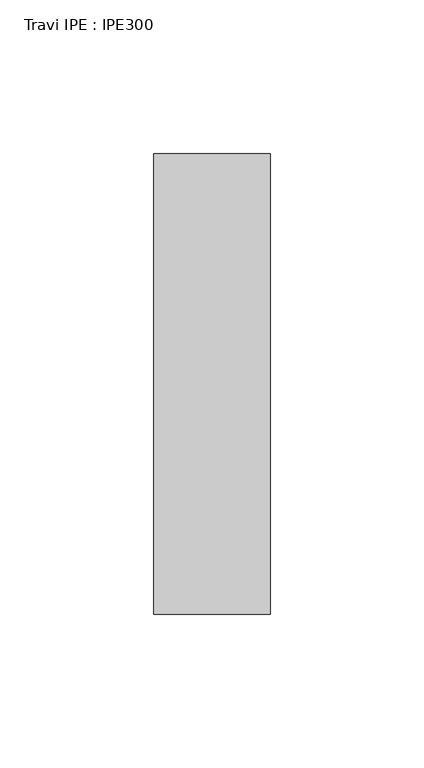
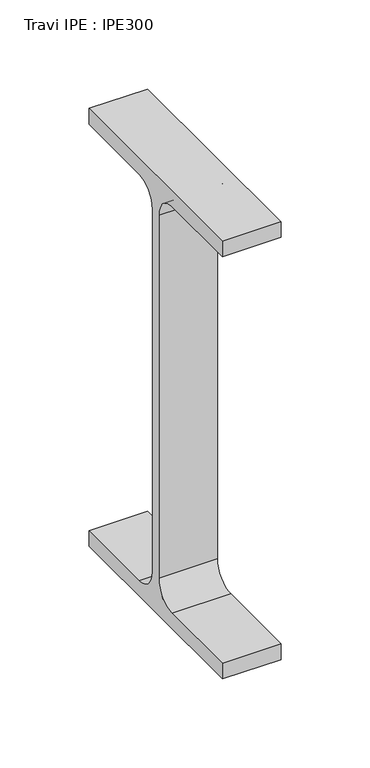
"""IFC4 building model written with IfcOpenShell, lengths in millimetres: beam geometry, Travi IPE : IPE300."""

from ifc_helpers import new_model, si_unit, point, frame, frame_2d, origin, place, context, project, spatial, polyline, circle_curve, trimmed, segment, composite_curve, outline, extrude, source, transform, mapped, element, save


def travi_ipe_ipe300_9d4224a5(model_context):
    return source(origin(), model_context, "Body", "SweptSolid", [
        extrude(outline(composite_curve([segment(polyline([(-75.0, -139.3), (-18.55, -139.3)]), True, "CONTINUOUS"), segment(trimmed(circle_curve(frame_2d((-18.55, -124.3)), 15.0), [point((-18.55, -139.3))], [point((-3.55, -124.3))], True, "CARTESIAN"), True, "CONTINUOUS"), segment(polyline([(-3.55, -124.3), (-3.55, 124.3)]), True, "CONTINUOUS"), segment(trimmed(circle_curve(frame_2d((-18.55, 124.3)), 15.0), [point((-3.55, 124.3))], [point((-18.55, 139.3))], True, "CARTESIAN"), True, "CONTINUOUS"), segment(polyline([(-18.55, 139.3), (-75.0, 139.3), (-75.0, 150.0), (75.0, 150.0), (75.0, 139.3), (18.55, 139.3)]), True, "CONTINUOUS"), segment(trimmed(circle_curve(frame_2d((18.55, 124.3)), 15.0), [point((18.55, 139.3))], [point((3.55, 124.3))], True, "CARTESIAN"), True, "CONTINUOUS"), segment(polyline([(3.55, 124.3), (3.55, -124.3)]), True, "CONTINUOUS"), segment(trimmed(circle_curve(frame_2d((18.55, -124.3)), 15.0), [point((3.55, -124.3))], [point((18.55, -139.3))], True, "CARTESIAN"), True, "CONTINUOUS"), segment(polyline([(18.55, -139.3), (75.0, -139.3), (75.0, -150.0), (-75.0, -150.0), (-75.0, -139.3)]), True, "CONTINUOUS")], self_intersect=False)), frame((99.5, 0.0, 0.0), z_axis=(1.0, 0.0, 0.0), x_axis=(0.0, 1.0, 0.0)), (0.0, 0.0, 1.0), 38.0),
    ])


if __name__ == "__main__":
    model = new_model("IFC4")
    model_context = context("Model", 3, world=origin())
    ifc_project = project(units=[si_unit("LENGTHUNIT", "METRE", prefix="MILLI")], contexts=[model_context])
    site = spatial("IfcSite", under=ifc_project)
    building = spatial("IfcBuilding", under=site)
    placement = place(None, origin())
    travi_ipe_ipe300_shape = travi_ipe_ipe300_9d4224a5(model_context)
    element("IfcBeam", 1, ObjectType="Travi IPE : IPE300", at=placement, inside=building, context=model_context, shape_type="MappedRepresentation", body=[
        mapped(travi_ipe_ipe300_shape, transform((0.0, 0.0, 0.0), x_axis=(1.0, 0.0, 0.0), y_axis=(0.0, 1.0, 0.0), z_axis=(0.0, 0.0, 1.0))),
    ])
    save(model, "model.ifc")
